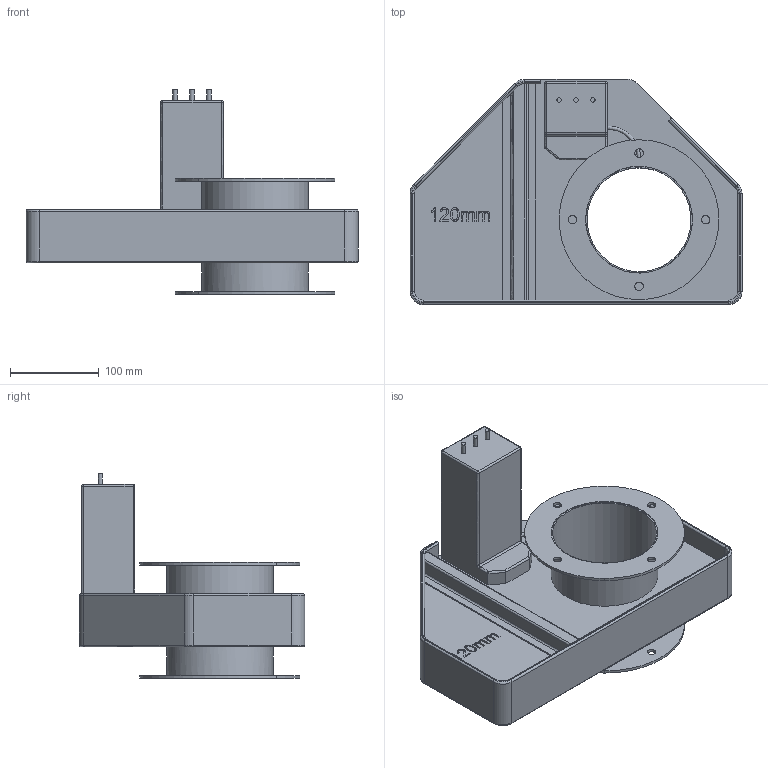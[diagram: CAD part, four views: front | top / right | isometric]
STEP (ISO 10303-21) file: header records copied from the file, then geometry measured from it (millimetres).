
FILE_DESCRIPTION( ('This file contains a STEP AP42 implementation' ,'as created by ZW3D STEP Interface translator.') ,'2;1' );
FILE_NAME( '3D Model-HO120mm Body with drive.stp' ,'20 7 9. 724 0', (''), ('ZWCAD Software Co.'), 'Version 1.0', 'ZW3D to STEP translator', '' );
FILE_SCHEMA(('AUTOMOTIVE_DESIGN'));
Length unit declared in the file: millimetre
Products named in the file (1): 0
Bounding box: 373.82 x 253.57 x 230.3 mm (x, y, z)
Volume: 2028066.3 mm3; surface area: 455954.9 mm2
Topology: 4 solids, 4 shells, 723 faces, 1931 edges, 1332 vertices
Faces by surface type: bspline 723
Entity records: 23951 total; most frequent: CARTESIAN_POINT 11721, ORIENTED_EDGE 3744, EDGE_CURVE 1872, B_SPLINE_CURVE_WITH_KNOTS 1635, VERTEX_POINT 1218, EDGE_LOOP 806, FACE_OUTER_BOUND 723, ADVANCED_FACE 723
